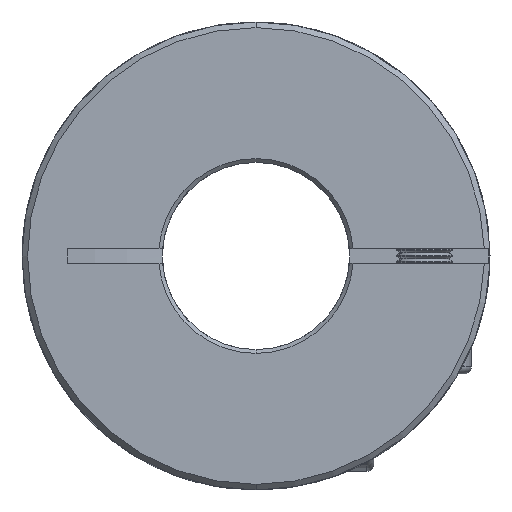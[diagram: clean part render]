
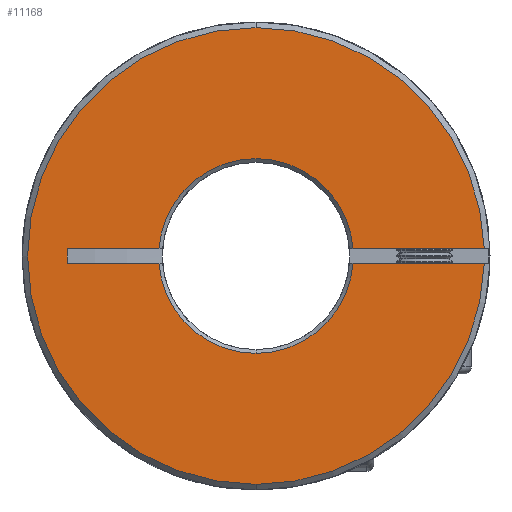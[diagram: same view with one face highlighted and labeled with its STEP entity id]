
A CAD part, front view. The second image highlights one B-rep face of the part: STEP entity #11168.
In plain terms, the highlighted planar face has unit normal (0, -1, 0).
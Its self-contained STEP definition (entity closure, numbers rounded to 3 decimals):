
#190 = VECTOR ( 'NONE', #4632, 1000. ) ;
#627 = CARTESIAN_POINT ( 'NONE',  ( 0., 0., 0. ) ) ;
#665 = EDGE_CURVE ( 'NONE', #1408, #12270, #8932, .T. ) ;
#928 = ORIENTED_EDGE ( 'NONE', *, *, #7299, .T. ) ;
#936 = AXIS2_PLACEMENT_3D ( 'NONE', #9251, #3928, #2620 ) ;
#1226 = DIRECTION ( 'NONE',  ( 0., 0., 1. ) ) ;
#1408 = VERTEX_POINT ( 'NONE', #12365 ) ;
#1444 = VERTEX_POINT ( 'NONE', #13978 ) ;
#1517 = EDGE_CURVE ( 'NONE', #11913, #1444, #7760, .T. ) ;
#1530 = ORIENTED_EDGE ( 'NONE', *, *, #17112, .T. ) ;
#1819 = EDGE_CURVE ( 'NONE', #11913, #9533, #4605, .T. ) ;
#1903 = EDGE_LOOP ( 'NONE', ( #15159, #4601, #7160, #10313, #8730, #928, #9271, #6544, #3753, #1530, #9740 ) ) ;
#1977 = CARTESIAN_POINT ( 'NONE',  ( 0., 0., 0. ) ) ;
#2318 = CARTESIAN_POINT ( 'NONE',  ( 0., 0., 0. ) ) ;
#2415 = CARTESIAN_POINT ( 'NONE',  ( 0., 0., 0. ) ) ;
#2499 = DIRECTION ( 'NONE',  ( 0., -1., 0. ) ) ;
#2620 = DIRECTION ( 'NONE',  ( 0., 0., 1. ) ) ;
#2792 = CARTESIAN_POINT ( 'NONE',  ( 0., 0., 0. ) ) ;
#2896 = CARTESIAN_POINT ( 'NONE',  ( -20.149, 0., -0.75 ) ) ;
#2921 = CARTESIAN_POINT ( 'NONE',  ( 24.388, 0., 0.75 ) ) ;
#3064 = DIRECTION ( 'NONE',  ( 0., -1., 0. ) ) ;
#3603 = DIRECTION ( 'NONE',  ( 0., 1., 0. ) ) ;
#3753 = ORIENTED_EDGE ( 'NONE', *, *, #7986, .T. ) ;
#3794 = CIRCLE ( 'NONE', #4752, 24.4 ) ;
#3928 = DIRECTION ( 'NONE',  ( 0., 1., 0. ) ) ;
#4087 = CARTESIAN_POINT ( 'NONE',  ( 0., 0., 0. ) ) ;
#4601 = ORIENTED_EDGE ( 'NONE', *, *, #15132, .T. ) ;
#4605 = LINE ( 'NONE', #2896, #10290 ) ;
#4632 = DIRECTION ( 'NONE',  ( 1., 0., 0. ) ) ;
#4677 = CARTESIAN_POINT ( 'NONE',  ( 0., 0., -24.4 ) ) ;
#4752 = AXIS2_PLACEMENT_3D ( 'NONE', #627, #3064, #7297 ) ;
#5010 = VERTEX_POINT ( 'NONE', #5503 ) ;
#5137 = CIRCLE ( 'NONE', #11287, 24.4 ) ;
#5486 = DIRECTION ( 'NONE',  ( 1., 0., 0. ) ) ;
#5503 = CARTESIAN_POINT ( 'NONE',  ( -10.373, 0., 0.75 ) ) ;
#5566 = EDGE_CURVE ( 'NONE', #10177, #5590, #5787, .T. ) ;
#5590 = VERTEX_POINT ( 'NONE', #2921 ) ;
#5594 = CARTESIAN_POINT ( 'NONE',  ( -50., 0., 0.75 ) ) ;
#5787 = LINE ( 'NONE', #5594, #16922 ) ;
#5994 = AXIS2_PLACEMENT_3D ( 'NONE', #2318, #3603, #13096 ) ;
#6317 = DIRECTION ( 'NONE',  ( 0., -1., 0. ) ) ;
#6544 = ORIENTED_EDGE ( 'NONE', *, *, #5566, .T. ) ;
#7160 = ORIENTED_EDGE ( 'NONE', *, *, #7695, .T. ) ;
#7214 = DIRECTION ( 'NONE',  ( 0., 0., 1. ) ) ;
#7297 = DIRECTION ( 'NONE',  ( 0., 0., 1. ) ) ;
#7299 = EDGE_CURVE ( 'NONE', #9533, #5010, #11402, .T. ) ;
#7361 = VERTEX_POINT ( 'NONE', #14632 ) ;
#7517 = VERTEX_POINT ( 'NONE', #4677 ) ;
#7652 = CIRCLE ( 'NONE', #16687, 24.4 ) ;
#7695 = EDGE_CURVE ( 'NONE', #10051, #1444, #8441, .T. ) ;
#7760 = LINE ( 'NONE', #8971, #17474 ) ;
#7986 = EDGE_CURVE ( 'NONE', #5590, #7361, #3794, .T. ) ;
#8273 = DIRECTION ( 'NONE',  ( 0., 1., 0. ) ) ;
#8309 = DIRECTION ( 'NONE',  ( 0., 0., 1. ) ) ;
#8441 = CIRCLE ( 'NONE', #5994, 10.4 ) ;
#8730 = ORIENTED_EDGE ( 'NONE', *, *, #1819, .T. ) ;
#8932 = LINE ( 'NONE', #16863, #190 ) ;
#8971 = CARTESIAN_POINT ( 'NONE',  ( -50., 0., -0.75 ) ) ;
#9136 = FACE_OUTER_BOUND ( 'NONE', #1903, .T. ) ;
#9251 = CARTESIAN_POINT ( 'NONE',  ( -50., 0., 32.858 ) ) ;
#9271 = ORIENTED_EDGE ( 'NONE', *, *, #9873, .T. ) ;
#9400 = CARTESIAN_POINT ( 'NONE',  ( -50., 0., 0.75 ) ) ;
#9533 = VERTEX_POINT ( 'NONE', #15582 ) ;
#9740 = ORIENTED_EDGE ( 'NONE', *, *, #16599, .T. ) ;
#9873 = EDGE_CURVE ( 'NONE', #5010, #10177, #11481, .T. ) ;
#10051 = VERTEX_POINT ( 'NONE', #11497 ) ;
#10177 = VERTEX_POINT ( 'NONE', #14562 ) ;
#10290 = VECTOR ( 'NONE', #8309, 1000. ) ;
#10313 = ORIENTED_EDGE ( 'NONE', *, *, #1517, .F. ) ;
#10448 = DIRECTION ( 'NONE',  ( 1., 0., 0. ) ) ;
#10713 = PLANE ( 'NONE',  #936 ) ;
#10895 = AXIS2_PLACEMENT_3D ( 'NONE', #1977, #12621, #7214 ) ;
#11168 = ADVANCED_FACE ( 'NONE', ( #9136 ), #10713, .F. ) ;
#11287 = AXIS2_PLACEMENT_3D ( 'NONE', #2415, #6317, #11896 ) ;
#11402 = LINE ( 'NONE', #9400, #11617 ) ;
#11431 = AXIS2_PLACEMENT_3D ( 'NONE', #2792, #8273, #12151 ) ;
#11481 = CIRCLE ( 'NONE', #11431, 10.4 ) ;
#11497 = CARTESIAN_POINT ( 'NONE',  ( 0., 0., -10.4 ) ) ;
#11617 = VECTOR ( 'NONE', #11981, 1000. ) ;
#11896 = DIRECTION ( 'NONE',  ( 0., 0., 1. ) ) ;
#11913 = VERTEX_POINT ( 'NONE', #14192 ) ;
#11981 = DIRECTION ( 'NONE',  ( 1., 0., 0. ) ) ;
#12151 = DIRECTION ( 'NONE',  ( 0., 0., 1. ) ) ;
#12179 = CIRCLE ( 'NONE', #10895, 10.4 ) ;
#12270 = VERTEX_POINT ( 'NONE', #16653 ) ;
#12365 = CARTESIAN_POINT ( 'NONE',  ( 10.373, 0., -0.75 ) ) ;
#12621 = DIRECTION ( 'NONE',  ( 0., 1., 0. ) ) ;
#13096 = DIRECTION ( 'NONE',  ( 0., 0., 1. ) ) ;
#13978 = CARTESIAN_POINT ( 'NONE',  ( -10.373, 0., -0.75 ) ) ;
#14192 = CARTESIAN_POINT ( 'NONE',  ( -20.149, 0., -0.75 ) ) ;
#14562 = CARTESIAN_POINT ( 'NONE',  ( 10.373, 0., 0.75 ) ) ;
#14632 = CARTESIAN_POINT ( 'NONE',  ( 0., 0., 24.4 ) ) ;
#15132 = EDGE_CURVE ( 'NONE', #1408, #10051, #12179, .T. ) ;
#15159 = ORIENTED_EDGE ( 'NONE', *, *, #665, .F. ) ;
#15582 = CARTESIAN_POINT ( 'NONE',  ( -20.149, 0., 0.75 ) ) ;
#16599 = EDGE_CURVE ( 'NONE', #7517, #12270, #7652, .T. ) ;
#16653 = CARTESIAN_POINT ( 'NONE',  ( 24.388, 0., -0.75 ) ) ;
#16687 = AXIS2_PLACEMENT_3D ( 'NONE', #4087, #2499, #1226 ) ;
#16863 = CARTESIAN_POINT ( 'NONE',  ( -50., 0., -0.75 ) ) ;
#16922 = VECTOR ( 'NONE', #5486, 1000. ) ;
#17112 = EDGE_CURVE ( 'NONE', #7361, #7517, #5137, .T. ) ;
#17474 = VECTOR ( 'NONE', #10448, 1000. ) ;
